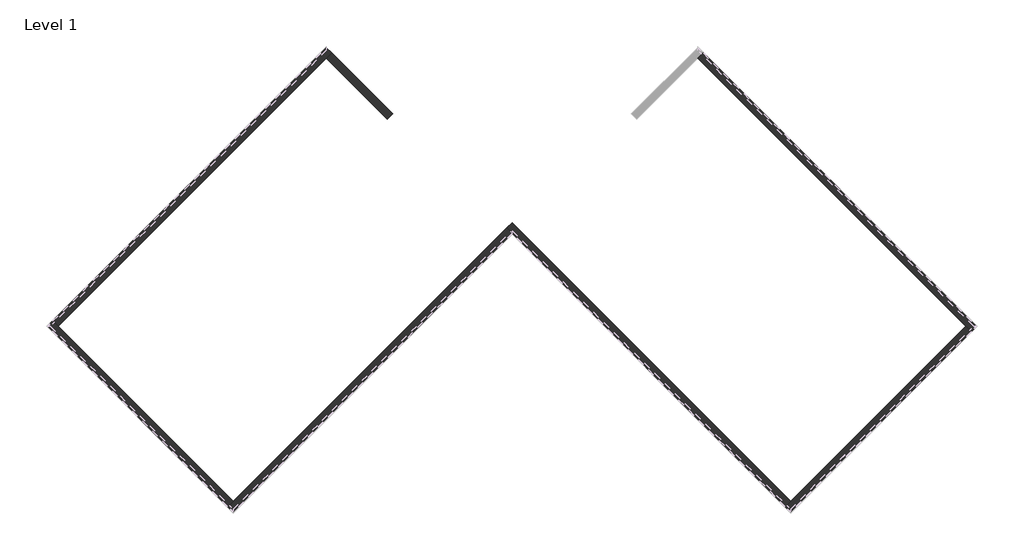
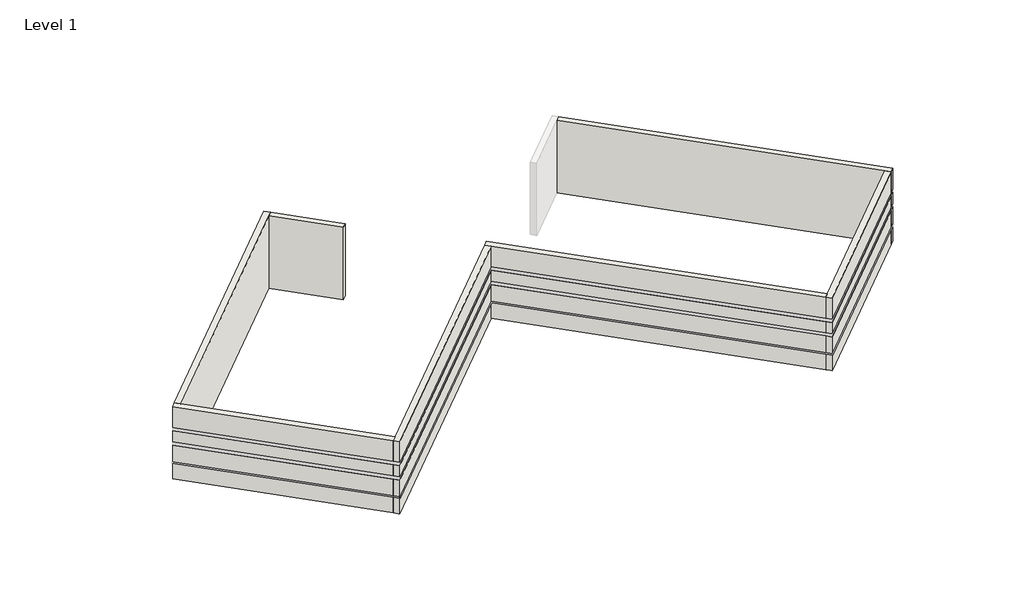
# One storey, part 1 of 2: 7 walls.
"""IFC4 building model written with IfcOpenShell, lengths in millimetres."""

import ifcopenshell
import ifcopenshell.guid

model = None  # the IFC model being written
_history = None  # IfcOwnerHistory: only IFC2X3 demands one
_inside = {}  # id of a spatial element -> (the spatial element, [elements in it])
_under = {}  # id of a project, library or spatial element -> (it, [spatial elements below it])
_declared = {}  # id of a project -> (the project, [libraries it declares])
_typed = {}  # id of a type object -> (the type object, [elements of that type])
_made_of = {}  # id of a material, layer set ... -> (it, [elements and type objects made of it])


def new_model(schema):
    """Start an empty IFC model of exactly this schema.

    Asked for "IFC4X3", IfcOpenShell would pick the latest addendum, in which some entities
    have other attributes; the version numbers below select the first issue.
    IFC2X3 requires an IfcOwnerHistory on every rooted entity: one is made here for all.
    """
    global model, _history
    if schema == "IFC4X3":
        model = ifcopenshell.file(schema_version=(4, 3, 0, 0))
    else:
        model = ifcopenshell.file(schema=schema)
    _inside.clear()
    _under.clear()
    _declared.clear()
    _typed.clear()
    _made_of.clear()
    _history = None
    if model.schema == "IFC2X3":
        org = make("IfcOrganization", Name="unknown")
        user = make(
            "IfcPersonAndOrganization",
            ThePerson=make("IfcPerson", FamilyName="unknown"),
            TheOrganization=org,
        )
        app = make(
            "IfcApplication",
            ApplicationDeveloper=org,
            Version="unknown",
            ApplicationFullName="unknown",
            ApplicationIdentifier="unknown",
        )
        _history = make(
            "IfcOwnerHistory",
            OwningUser=user,
            OwningApplication=app,
            ChangeAction="ADDED",
            CreationDate=0,
        )
    return model


def make(cls, **values):
    """One entity of the class cls with the attributes given. An attribute that is None is left unset."""
    return model.create_entity(
        cls, **{name: value for name, value in values.items() if value is not None}
    )


def rooted(cls, **values):
    """An entity with a GlobalId (a new one), such as an element, a storey or a relation."""
    return make(cls, GlobalId=ifcopenshell.guid.new(), OwnerHistory=_history, **values)


def si_unit(unit_type, name, prefix=None):
    """IfcSIUnit, for example si_unit("LENGTHUNIT", "METRE", prefix="MILLI")."""
    return make("IfcSIUnit", UnitType=unit_type, Prefix=prefix, Name=name)


def assignment(units):
    """IfcUnitAssignment: the units of a project."""
    return None if units is None else make("IfcUnitAssignment", Units=units)


def point(xyz):
    """IfcCartesianPoint."""
    return None if xyz is None else make("IfcCartesianPoint", Coordinates=xyz)


def direction(xyz):
    """IfcDirection."""
    return None if xyz is None else make("IfcDirection", DirectionRatios=xyz)


def frame(location, z_axis=None, x_axis=None):
    """IfcAxis2Placement3D, a coordinate frame: its origin and axes. An axis left out is left unset."""
    return make(
        "IfcAxis2Placement3D",
        Location=point(location),
        Axis=direction(z_axis),
        RefDirection=direction(x_axis),
    )


def origin():
    """The frame at (0, 0, 0) with its axes left unset."""
    return frame((0.0, 0.0, 0.0))


def place(relative_to, where):
    """IfcLocalPlacement: puts the frame where relative to a parent placement (None: the world)."""
    return make(
        "IfcLocalPlacement", PlacementRelTo=relative_to, RelativePlacement=where
    )


def context(
    kind, dimensions, precision=None, world=None, true_north=None, identifier=None
):
    """IfcGeometricRepresentationContext, for example the 3D "Model" context."""
    return make(
        "IfcGeometricRepresentationContext",
        ContextIdentifier=identifier,
        ContextType=kind,
        CoordinateSpaceDimension=dimensions,
        Precision=precision,
        WorldCoordinateSystem=world,
        TrueNorth=true_north,
    )


def project(units=None, contexts=None):
    """IfcProject with its units and contexts."""
    return rooted(
        "IfcProject",
        Name="project",
        RepresentationContexts=contexts,
        UnitsInContext=assignment(units),
    )


def spatial(cls, under=None, at=None, **own):
    """A site, building, storey or space (cls), placed at a placement, below another one or the project."""
    s = rooted(cls, ObjectPlacement=at, **own)
    if under is not None:
        _under.setdefault(under.id(), (under, []))[1].append(s)
    return s


def polyline(points):
    """IfcPolyline through the points."""
    return make("IfcPolyline", Points=[point(p) for p in points])


def circle_curve(where, radius):
    """IfcCircle in the frame where."""
    return make("IfcCircle", Position=where, Radius=radius)


def faces_of(points, faces, orient=None, outer=None):
    """IfcFace entities. A face is a list of loops; a loop is a list of indices into points, from 0.

    orient and outer hold one flag for each loop. By default every Orientation is true, the
    first loop of a face is its IfcFaceOuterBound and the others are IfcFaceBound.
    """
    made = []
    for i, loops in enumerate(faces):
        bounds = []
        for j, loop in enumerate(loops):
            is_outer = j == 0 if outer is None else outer[i][j]
            bounds.append(
                make(
                    "IfcFaceOuterBound" if is_outer else "IfcFaceBound",
                    Bound=make("IfcPolyLoop", Polygon=[points[k] for k in loop]),
                    Orientation=True if orient is None else orient[i][j],
                )
            )
        made.append(make("IfcFace", Bounds=bounds))
    return made


def faceted_brep(points, faces, orient=None, outer=None, voids=None):
    """IfcFacetedBrep: a solid bounded by flat faces; with voids (closed shells), ...WithVoids."""
    shared = [point(p) for p in points]
    hull = make("IfcClosedShell", CfsFaces=faces_of(shared, faces, orient, outer))
    if voids is None:
        return make("IfcFacetedBrep", Outer=hull)
    return make(
        "IfcFacetedBrepWithVoids",
        Outer=hull,
        Voids=[
            make(cls, CfsFaces=faces_of(shared, fs, o, b)) for cls, fs, o, b in voids
        ],
    )


def shape(context_of_items, identifier, shape_type, items):
    """IfcShapeRepresentation: the items that make up one representation, for example the "Body"."""
    return make(
        "IfcShapeRepresentation",
        ContextOfItems=context_of_items,
        RepresentationIdentifier=identifier,
        RepresentationType=shape_type,
        Items=items,
    )


def made_of(thing, what):
    """Note that an element or type object is made of a material, layer set ...; save() writes the relation."""
    if what is not None:
        _made_of.setdefault(what.id(), (what, []))[1].append(thing)
    return thing


def element(
    cls,
    number,
    at=None,
    inside=None,
    cuts=None,
    type_object=None,
    material=None,
    context=None,
    identifier="Body",
    shape_type=None,
    held_by="IfcProductDefinitionShape",
    body=None,
    shapes=None,
    **own,
):
    """One element of the class cls, such as IfcWall. Its Tag is "e" and its number.

    at: its placement. inside: the storey or other place that contains it. cuts: it is an
    opening in that element (IfcRelVoidsElement). A single representation is given by context,
    identifier, shape_type and body (its items); several are given by shapes. held_by: the class
    of the entity that holds the representations. save() writes the other relations.
    """
    e = rooted(cls, Tag="e%d" % number, ObjectPlacement=at, **own)
    if body is not None:
        shapes = [shape(context, identifier, shape_type, body)]
    if shapes is not None:
        e.Representation = make(held_by, Representations=shapes)
    if inside is not None:
        _inside.setdefault(inside.id(), (inside, []))[1].append(e)
    if cuts is not None:
        rooted(
            "IfcRelVoidsElement", RelatingBuildingElement=cuts, RelatedOpeningElement=e
        )
    if type_object is not None:
        _typed.setdefault(type_object.id(), (type_object, []))[1].append(e)
    return made_of(e, material)


def aggregate(whole, parts):
    """IfcRelAggregates: a whole, such as a stair, and the parts it consists of."""
    return rooted("IfcRelAggregates", RelatingObject=whole, RelatedObjects=parts)


def save(model, path):
    """Write the relations noted so far, then the file.

    IfcRelAggregates (storeys below a building ...), IfcRelContainedInSpatialStructure (elements
    in a storey), IfcRelDefinesByType, IfcRelAssociatesMaterial and IfcRelDeclares: one each for
    every whole, place, type object, material and project.
    """
    for whole, parts in _under.values():
        aggregate(whole, parts)
    for where, things in _inside.values():
        rooted(
            "IfcRelContainedInSpatialStructure",
            RelatedElements=things,
            RelatingStructure=where,
        )
    for kind, things in _typed.values():
        rooted("IfcRelDefinesByType", RelatedObjects=things, RelatingType=kind)
    for what, things in _made_of.values():
        rooted("IfcRelAssociatesMaterial", RelatedObjects=things, RelatingMaterial=what)
    for by, libraries in _declared.values():
        rooted("IfcRelDeclares", RelatingContext=by, RelatedDefinitions=libraries)
    model.write(path)


def plane_surface(at):
    """IfcPlane: the flat surface through the origin of the frame at, square to its z axis."""
    return make("IfcPlane", Position=at)


def cylinder_surface(at, radius):
    """IfcCylindricalSurface: all points at the distance radius from the z axis of the frame at."""
    return make("IfcCylindricalSurface", Position=at, Radius=radius)


def revolved_surface(curve, axis_point, axis_direction):
    """IfcSurfaceOfRevolution: the curve turned about the line through axis_point along axis_direction."""
    return make(
        "IfcSurfaceOfRevolution",
        SweptCurve=make("IfcArbitraryOpenProfileDef", ProfileType="CURVE", Curve=curve),
        AxisPosition=make("IfcAxis1Placement", Location=point(axis_point), Axis=direction(axis_direction)),
    )


def advanced_brep(points, edges, surfaces, faces):
    """IfcAdvancedBrep: a solid bounded by faces that lie on surfaces and meet in shared edges.

    An edge is (start, end): straight between two places in points (the first is 0);
    or (start, end, curve); or (start, end, curve, False) where it runs against its curve.
    A face is (place in surfaces, loops), or (place, loops, False) where it looks against
    its surface's normal. A loop lists edges by number (the first is 1), with a minus sign
    where the edge is run from its end to its start. The first loop is the outer one.
    """
    corners = [point(p) for p in points]
    vertices = [make("IfcVertexPoint", VertexGeometry=c) for c in corners]
    made = []
    for start, end, *more in edges:
        made.append(
            make(
                "IfcEdgeCurve",
                EdgeStart=vertices[start],
                EdgeEnd=vertices[end],
                EdgeGeometry=more[0] if more else make("IfcPolyline", Points=[corners[start], corners[end]]),
                SameSense=more[1] if len(more) > 1 else True,
            )
        )
    hull = []
    for where, loops, *sense in faces:
        bounds = []
        for j, loop in enumerate(loops):
            ring = [make("IfcOrientedEdge", EdgeElement=made[abs(k) - 1], Orientation=k > 0) for k in loop]
            bounds.append(
                make(
                    "IfcFaceOuterBound" if j == 0 else "IfcFaceBound",
                    Bound=make("IfcEdgeLoop", EdgeList=ring),
                    Orientation=True,
                )
            )
        hull.append(make("IfcAdvancedFace", Bounds=bounds, FaceSurface=surfaces[where], SameSense=sense[0] if sense else True))
    return make("IfcAdvancedBrep", Outer=make("IfcClosedShell", CfsFaces=hull))


model = new_model("IFC4")

# Units and contexts
model_context = context("Model", 3, world=origin())
ifc_project = project(units=[si_unit("LENGTHUNIT", "METRE", prefix="MILLI")], contexts=[model_context])

# Site, building, storey
site = spatial("IfcSite", under=ifc_project)
building = spatial("IfcBuilding", under=site)
storey = spatial("IfcBuildingStorey", under=building, Name="Level 1", Elevation=0.0)

# Walls
placement = place(None, origin())
element("IfcWall", 1, ObjectType="Exterior - Split Face and CMU on Mtl. Stud", at=placement, inside=storey, context=model_context, shape_type="Brep", body=[
    faceted_brep([(5753.0175119, 11075.1750895, 4572.0), (18186.1821115, -1357.9895101, 4572.0), (18435.3842189, -1607.1916175, 4572.0), (18684.5863263, -1357.9895101, 4572.0), (6002.2196193, 11324.3771969, 4572.0), (5753.0175119, 11075.1750895, 0.0), (18186.1821115, -1357.9895101, 0.0), (18435.3842189, -1607.1916175, 0.0), (18435.3842189, -1607.1916175, 1016.0), (18370.277362, -1542.0847606, 1016.0), (18370.277362, -1542.0847606, 1085.85), (18435.3842189, -1607.1916175, 1085.85), (18435.3842189, -1607.1916175, 2133.6), (18370.277362, -1542.0847606, 2133.6), (18370.277362, -1542.0847606, 2336.8), (18435.3842189, -1607.1916175, 2336.8), (18435.3842189, -1607.1916175, 3048.0), (18370.277362, -1542.0847606, 3048.0), (18370.277362, -1542.0847606, 3251.2), (18435.3842189, -1607.1916175, 3251.2), (18684.5863263, -1357.9895101, 3251.2), (6002.2196193, 11324.3771969, 3251.2), (18684.5863263, -1357.9895101, 0.0), (6002.2196193, 11324.3771969, 0.0), (6002.2196193, 11324.3771969, 1016.0), (18684.5863263, -1357.9895101, 1016.0), (18684.5863263, -1357.9895101, 1085.85), (6002.2196193, 11324.3771969, 1085.85), (6002.2196193, 11324.3771969, 2133.6), (18684.5863263, -1357.9895101, 2133.6), (18684.5863263, -1357.9895101, 2336.8), (6002.2196193, 11324.3771969, 2336.8), (6002.2196193, 11324.3771969, 3048.0), (18684.5863263, -1357.9895101, 3048.0), (5937.1127624, 11259.27034, 0.0), (18619.4794694, -1423.096367, 0.0), (5937.1127624, 11259.27034, 3251.2), (5937.1127624, 11259.27034, 3048.0), (5937.1127624, 11259.27034, 2336.8), (5937.1127624, 11259.27034, 2133.6), (5937.1127624, 11259.27034, 1085.85), (5937.1127624, 11259.27034, 1016.0), (18554.3726125, -1357.9895101, 1085.85), (18554.3726125, -1357.9895101, 1016.0), (18554.3726125, -1357.9895101, 2133.6), (18554.3726125, -1357.9895101, 2336.8), (18554.3726125, -1357.9895101, 3048.0), (18554.3726125, -1357.9895101, 3251.2)], [[[0, 1, 2, 3, 4]], [[5, 6, 7, 8, 9, 10, 11, 12, 13, 14, 15, 16, 17, 18, 19, 2, 1, 0]], [[4, 3, 20, 21]], [[22, 23, 24, 25]], [[26, 27, 28, 29]], [[30, 31, 32, 33]], [[7, 6, 5, 34, 35]], [[5, 0, 4, 21, 36, 37, 32, 31, 38, 39, 28, 27, 40, 41, 24, 23, 34]], [[23, 22, 35, 34]], [[3, 2, 19, 20]], [[7, 35, 22, 25, 8]], [[11, 26, 29, 12]], [[15, 30, 33, 16]], [[10, 42, 40, 27, 26, 11]], [[41, 43, 9, 8, 25, 24]], [[42, 43, 41, 40]], [[43, 42, 10, 9]], [[39, 44, 13, 12, 29, 28]], [[14, 45, 38, 31, 30, 15]], [[45, 44, 39, 38]], [[44, 45, 14, 13]], [[37, 46, 17, 16, 33, 32]], [[18, 47, 36, 21, 20, 19]], [[47, 46, 37, 36]], [[46, 47, 18, 17]]]),
])
element("IfcWall", 2, ObjectType="Exterior - Split Face and CMU on Mtl. Stud", at=placement, inside=storey, context=model_context, shape_type="Brep", body=[
    faceted_brep([(18186.1821115, -1357.9895101, 4572.0), (10063.54045, -9480.6311716, 4572.0), (9814.3383427, -9729.833279, 4572.0), (10063.54045, -9979.0353863, 4572.0), (18435.3842189, -1607.1916175, 4572.0), (18186.1821115, -1357.9895101, 0.0), (10063.54045, -9480.6311716, 0.0), (9814.3383427, -9729.833279, 0.0), (9814.3383427, -9729.833279, 1016.0), (9879.4451996, -9664.7264221, 1016.0), (9879.4451996, -9664.7264221, 1085.85), (9814.3383427, -9729.833279, 1085.85), (9814.3383427, -9729.833279, 2133.6), (9879.4451996, -9664.7264221, 2133.6), (9879.4451996, -9664.7264221, 2336.8), (9814.3383427, -9729.833279, 2336.8), (9814.3383427, -9729.833279, 3048.0), (9879.4451996, -9664.7264221, 3048.0), (9879.4451996, -9664.7264221, 3251.2), (9814.3383427, -9729.833279, 3251.2), (10063.54045, -9979.0353863, 3251.2), (18435.3842189, -1607.1916175, 3251.2), (10063.54045, -9979.0353863, 0.0), (18435.3842189, -1607.1916175, 0.0), (18435.3842189, -1607.1916175, 1016.0), (10063.54045, -9979.0353863, 1016.0), (10063.54045, -9979.0353863, 1085.85), (18435.3842189, -1607.1916175, 1085.85), (18435.3842189, -1607.1916175, 2133.6), (10063.54045, -9979.0353863, 2133.6), (10063.54045, -9979.0353863, 2336.8), (18435.3842189, -1607.1916175, 2336.8), (18435.3842189, -1607.1916175, 3048.0), (10063.54045, -9979.0353863, 3048.0), (18370.277362, -1542.0847606, 0.0), (9998.4335932, -9913.9285294, 0.0), (18370.277362, -1542.0847606, 3251.2), (18370.277362, -1542.0847606, 3048.0), (18370.277362, -1542.0847606, 2336.8), (18370.277362, -1542.0847606, 2133.6), (18370.277362, -1542.0847606, 1085.85), (18370.277362, -1542.0847606, 1016.0), (10063.54045, -9848.8216726, 1085.85), (10063.54045, -9848.8216726, 1016.0), (10063.54045, -9848.8216726, 2133.6), (10063.54045, -9848.8216726, 2336.8), (10063.54045, -9848.8216726, 3048.0), (10063.54045, -9848.8216726, 3251.2)], [[[0, 1, 2, 3, 4]], [[5, 6, 7, 8, 9, 10, 11, 12, 13, 14, 15, 16, 17, 18, 19, 2, 1, 0]], [[4, 3, 20, 21]], [[22, 23, 24, 25]], [[26, 27, 28, 29]], [[30, 31, 32, 33]], [[7, 6, 5, 34, 35]], [[5, 0, 4, 21, 36, 37, 32, 31, 38, 39, 28, 27, 40, 41, 24, 23, 34]], [[23, 22, 35, 34]], [[3, 2, 19, 20]], [[7, 35, 22, 25, 8]], [[11, 26, 29, 12]], [[15, 30, 33, 16]], [[10, 42, 40, 27, 26, 11]], [[41, 43, 9, 8, 25, 24]], [[42, 43, 41, 40]], [[43, 42, 10, 9]], [[39, 44, 13, 12, 29, 28]], [[14, 45, 38, 31, 30, 15]], [[45, 44, 39, 38]], [[44, 45, 14, 13]], [[37, 46, 17, 16, 33, 32]], [[18, 47, 36, 21, 20, 19]], [[47, 46, 37, 36]], [[46, 47, 18, 17]]]),
])
element("IfcWall", 3, ObjectType="Exterior - Split Face and CMU on Mtl. Stud", at=placement, inside=storey, context=model_context, shape_type="Brep", body=[
    faceted_brep([(10063.54045, -9480.6311716, 4572.0), (-2868.0283643, 3450.9376427, 4572.0), (-3117.2304717, 3201.7355354, 4572.0), (-2868.0283643, 2952.533428, 4572.0), (9814.3383427, -9729.833279, 4572.0), (10063.54045, -9480.6311716, 0.0), (-2868.0283643, 3450.9376427, 0.0), (-3117.2304717, 3201.7355354, 0.0), (-2868.0283643, 2952.533428, 0.0), (9814.3383427, -9729.833279, 0.0), (9814.3383427, -9729.833279, 1016.0), (-2868.0283643, 2952.533428, 1016.0), (-2933.1352212, 3017.6402849, 1016.0), (-2933.1352212, 3017.6402849, 1085.85), (-2868.0283643, 2952.533428, 1085.85), (9814.3383427, -9729.833279, 1085.85), (9814.3383427, -9729.833279, 2133.6), (-2868.0283643, 2952.533428, 2133.6), (-2933.1352212, 3017.6402849, 2133.6), (-2933.1352212, 3017.6402849, 2336.8), (-2868.0283643, 2952.533428, 2336.8), (9814.3383427, -9729.833279, 2336.8), (9814.3383427, -9729.833279, 3048.0), (-2868.0283643, 2952.533428, 3048.0), (-2933.1352212, 3017.6402849, 3048.0), (-2933.1352212, 3017.6402849, 3251.2), (-2868.0283643, 2952.533428, 3251.2), (9814.3383427, -9729.833279, 3251.2), (9879.4451996, -9664.7264221, 0.0), (-3052.1236148, 3266.8423923, 0.0), (9879.4451996, -9664.7264221, 3251.2), (9879.4451996, -9664.7264221, 3048.0), (9879.4451996, -9664.7264221, 2336.8), (9879.4451996, -9664.7264221, 2133.6), (9879.4451996, -9664.7264221, 1085.85), (9879.4451996, -9664.7264221, 1016.0), (-2868.0283643, 3082.7471418, 1085.85), (-2868.0283643, 3082.7471418, 1016.0), (-2868.0283643, 3082.7471418, 2133.6), (-2868.0283643, 3082.7471418, 2336.8), (-2868.0283643, 3082.7471418, 3048.0), (-2868.0283643, 3082.7471418, 3251.2)], [[[0, 1, 2, 3, 4]], [[5, 6, 1, 0]], [[4, 3, 2, 7, 8, 9, 10, 11, 12, 13, 14, 15, 16, 17, 18, 19, 20, 21, 22, 23, 24, 25, 26, 27]], [[6, 5, 28, 29]], [[5, 0, 4, 27, 30, 31, 22, 21, 32, 33, 16, 15, 34, 35, 10, 9, 28]], [[9, 8, 7, 29, 28]], [[1, 6, 29, 7, 2]], [[13, 36, 34, 15, 14]], [[35, 37, 12, 11, 10]], [[36, 37, 35, 34]], [[37, 36, 13, 12]], [[33, 38, 18, 17, 16]], [[19, 39, 32, 21, 20]], [[39, 38, 33, 32]], [[38, 39, 19, 18]], [[31, 40, 24, 23, 22]], [[25, 41, 30, 27, 26]], [[41, 40, 31, 30]], [[40, 41, 25, 24]]]),
])
element("IfcWall", 4, ObjectType="Exterior - Split Face and CMU on Mtl. Stud", at=placement, inside=storey, context=model_context, shape_type="Brep", body=[
    faceted_brep([(-3117.2304717, 3201.7355354, 4572.0), (-15799.5971786, -9480.6311716, 4572.0), (-16048.799286, -9729.833279, 4572.0), (-15799.5971786, -9979.0353863, 4572.0), (-2868.0283643, 2952.533428, 4572.0), (-3117.2304717, 3201.7355354, 0.0), (-15799.5971786, -9480.6311716, 0.0), (-16048.799286, -9729.833279, 0.0), (-16048.799286, -9729.833279, 1016.0), (-15983.6924291, -9664.7264221, 1016.0), (-15983.6924291, -9664.7264221, 1085.85), (-16048.799286, -9729.833279, 1085.85), (-16048.799286, -9729.833279, 2133.6), (-15983.6924291, -9664.7264221, 2133.6), (-15983.6924291, -9664.7264221, 2336.8), (-16048.799286, -9729.833279, 2336.8), (-16048.799286, -9729.833279, 3048.0), (-15983.6924291, -9664.7264221, 3048.0), (-15983.6924291, -9664.7264221, 3251.2), (-16048.799286, -9729.833279, 3251.2), (-15799.5971786, -9979.0353863, 3251.2), (-2868.0283643, 2952.533428, 3251.2), (-15799.5971786, -9979.0353863, 0.0), (-2868.0283643, 2952.533428, 0.0), (-2868.0283643, 2952.533428, 1016.0), (-15799.5971786, -9979.0353863, 1016.0), (-15799.5971786, -9979.0353863, 1085.85), (-2868.0283643, 2952.533428, 1085.85), (-2868.0283643, 2952.533428, 2133.6), (-15799.5971786, -9979.0353863, 2133.6), (-15799.5971786, -9979.0353863, 2336.8), (-2868.0283643, 2952.533428, 2336.8), (-2868.0283643, 2952.533428, 3048.0), (-15799.5971786, -9979.0353863, 3048.0), (-2933.1352212, 3017.6402849, 0.0), (-15864.7040355, -9913.9285294, 0.0), (-2933.1352212, 3017.6402849, 3251.2), (-2933.1352212, 3017.6402849, 3048.0), (-2933.1352212, 3017.6402849, 2336.8), (-2933.1352212, 3017.6402849, 2133.6), (-2933.1352212, 3017.6402849, 1085.85), (-2933.1352212, 3017.6402849, 1016.0), (-15799.5971786, -9848.8216726, 1085.85), (-15799.5971786, -9848.8216726, 1016.0), (-15799.5971786, -9848.8216726, 2133.6), (-15799.5971786, -9848.8216726, 2336.8), (-15799.5971786, -9848.8216726, 3048.0), (-15799.5971786, -9848.8216726, 3251.2)], [[[0, 1, 2, 3, 4]], [[5, 6, 7, 8, 9, 10, 11, 12, 13, 14, 15, 16, 17, 18, 19, 2, 1, 0]], [[4, 3, 20, 21]], [[22, 23, 24, 25]], [[26, 27, 28, 29]], [[30, 31, 32, 33]], [[7, 6, 5, 34, 35]], [[5, 0, 4, 21, 36, 37, 32, 31, 38, 39, 28, 27, 40, 41, 24, 23, 34]], [[23, 22, 35, 34]], [[3, 2, 19, 20]], [[7, 35, 22, 25, 8]], [[11, 26, 29, 12]], [[15, 30, 33, 16]], [[10, 42, 40, 27, 26, 11]], [[41, 43, 9, 8, 25, 24]], [[42, 43, 41, 40]], [[43, 42, 10, 9]], [[39, 44, 13, 12, 29, 28]], [[14, 45, 38, 31, 30, 15]], [[45, 44, 39, 38]], [[44, 45, 14, 13]], [[37, 46, 17, 16, 33, 32]], [[18, 47, 36, 21, 20, 19]], [[47, 46, 37, 36]], [[46, 47, 18, 17]]]),
])
element("IfcWall", 5, ObjectType="Exterior - Split Face and CMU on Mtl. Stud", at=placement, inside=storey, context=model_context, shape_type="Brep", body=[
    faceted_brep([(-15799.5971786, -9480.6311716, 4572.0), (-23922.2388402, -1357.9895101, 4572.0), (-24171.4409475, -1108.7874027, 4572.0), (-24420.6430549, -1357.9895101, 4572.0), (-16048.799286, -9729.833279, 4572.0), (-15799.5971786, -9480.6311716, 0.0), (-23922.2388402, -1357.9895101, 0.0), (-24171.4409475, -1108.7874027, 0.0), (-24171.4409475, -1108.7874027, 1016.0), (-24106.3340906, -1173.8942596, 1016.0), (-24106.3340906, -1173.8942596, 1085.85), (-24171.4409475, -1108.7874027, 1085.85), (-24171.4409475, -1108.7874027, 2133.6), (-24106.3340906, -1173.8942596, 2133.6), (-24106.3340906, -1173.8942596, 2336.8), (-24171.4409475, -1108.7874027, 2336.8), (-24171.4409475, -1108.7874027, 3048.0), (-24106.3340906, -1173.8942596, 3048.0), (-24106.3340906, -1173.8942596, 3251.2), (-24171.4409475, -1108.7874027, 3251.2), (-24420.6430549, -1357.9895101, 3251.2), (-16048.799286, -9729.833279, 3251.2), (-24420.6430549, -1357.9895101, 0.0), (-16048.799286, -9729.833279, 0.0), (-16048.799286, -9729.833279, 1016.0), (-24420.6430549, -1357.9895101, 1016.0), (-24420.6430549, -1357.9895101, 1085.85), (-16048.799286, -9729.833279, 1085.85), (-16048.799286, -9729.833279, 2133.6), (-24420.6430549, -1357.9895101, 2133.6), (-24420.6430549, -1357.9895101, 2336.8), (-16048.799286, -9729.833279, 2336.8), (-16048.799286, -9729.833279, 3048.0), (-24420.6430549, -1357.9895101, 3048.0), (-15983.6924291, -9664.7264221, 0.0), (-24355.536198, -1292.8826532, 0.0), (-15983.6924291, -9664.7264221, 3251.2), (-15983.6924291, -9664.7264221, 3048.0), (-15983.6924291, -9664.7264221, 2336.8), (-15983.6924291, -9664.7264221, 2133.6), (-15983.6924291, -9664.7264221, 1085.85), (-15983.6924291, -9664.7264221, 1016.0), (-24290.4293411, -1357.9895101, 1085.85), (-24290.4293411, -1357.9895101, 1016.0), (-24290.4293411, -1357.9895101, 2133.6), (-24290.4293411, -1357.9895101, 2336.8), (-24290.4293411, -1357.9895101, 3048.0), (-24290.4293411, -1357.9895101, 3251.2)], [[[0, 1, 2, 3, 4]], [[5, 6, 7, 8, 9, 10, 11, 12, 13, 14, 15, 16, 17, 18, 19, 2, 1, 0]], [[4, 3, 20, 21]], [[22, 23, 24, 25]], [[26, 27, 28, 29]], [[30, 31, 32, 33]], [[7, 6, 5, 34, 35]], [[5, 0, 4, 21, 36, 37, 32, 31, 38, 39, 28, 27, 40, 41, 24, 23, 34]], [[23, 22, 35, 34]], [[3, 2, 19, 20]], [[7, 35, 22, 25, 8]], [[11, 26, 29, 12]], [[15, 30, 33, 16]], [[10, 42, 40, 27, 26, 11]], [[41, 43, 9, 8, 25, 24]], [[42, 43, 41, 40]], [[43, 42, 10, 9]], [[39, 44, 13, 12, 29, 28]], [[14, 45, 38, 31, 30, 15]], [[45, 44, 39, 38]], [[44, 45, 14, 13]], [[37, 46, 17, 16, 33, 32]], [[18, 47, 36, 21, 20, 19]], [[47, 46, 37, 36]], [[46, 47, 18, 17]]]),
])
element("IfcWall", 6, ObjectType="Exterior - Split Face and CMU on Mtl. Stud", at=placement, inside=storey, context=model_context, shape_type="Brep", body=[
    faceted_brep([(-23922.2388402, -1357.9895101, 4572.0), (-11489.0742405, 11075.1750895, 4572.0), (-11239.8721332, 11324.3771969, 4572.0), (-11489.0742405, 11573.5793042, 4572.0), (-24171.4409475, -1108.7874027, 4572.0), (-23922.2388402, -1357.9895101, 0.0), (-11489.0742405, 11075.1750895, 0.0), (-11239.8721332, 11324.3771969, 0.0), (-11239.8721332, 11324.3771969, 1016.0), (-11304.9789901, 11259.27034, 1016.0), (-11304.9789901, 11259.27034, 1085.85), (-11239.8721332, 11324.3771969, 1085.85), (-11239.8721332, 11324.3771969, 2133.6), (-11304.9789901, 11259.27034, 2133.6), (-11304.9789901, 11259.27034, 2336.8), (-11239.8721332, 11324.3771969, 2336.8), (-11239.8721332, 11324.3771969, 3048.0), (-11304.9789901, 11259.27034, 3048.0), (-11304.9789901, 11259.27034, 3251.2), (-11239.8721332, 11324.3771969, 3251.2), (-11489.0742405, 11573.5793042, 3251.2), (-24171.4409475, -1108.7874027, 3251.2), (-11489.0742405, 11573.5793042, 0.0), (-24171.4409475, -1108.7874027, 0.0), (-24171.4409475, -1108.7874027, 1016.0), (-11489.0742405, 11573.5793042, 1016.0), (-11489.0742405, 11573.5793042, 1085.85), (-24171.4409475, -1108.7874027, 1085.85), (-24171.4409475, -1108.7874027, 2133.6), (-11489.0742405, 11573.5793042, 2133.6), (-11489.0742405, 11573.5793042, 2336.8), (-24171.4409475, -1108.7874027, 2336.8), (-24171.4409475, -1108.7874027, 3048.0), (-11489.0742405, 11573.5793042, 3048.0), (-24106.3340906, -1173.8942596, 0.0), (-11423.9673837, 11508.4724474, 0.0), (-24106.3340906, -1173.8942596, 3251.2), (-24106.3340906, -1173.8942596, 3048.0), (-24106.3340906, -1173.8942596, 2336.8), (-24106.3340906, -1173.8942596, 2133.6), (-24106.3340906, -1173.8942596, 1085.85), (-24106.3340906, -1173.8942596, 1016.0), (-11489.0742405, 11443.3655905, 1085.85), (-11489.0742405, 11443.3655905, 1016.0), (-11489.0742405, 11443.3655905, 2133.6), (-11489.0742405, 11443.3655905, 2336.8), (-11489.0742405, 11443.3655905, 3048.0), (-11489.0742405, 11443.3655905, 3251.2)], [[[0, 1, 2, 3, 4]], [[5, 6, 7, 8, 9, 10, 11, 12, 13, 14, 15, 16, 17, 18, 19, 2, 1, 0]], [[4, 3, 20, 21]], [[22, 23, 24, 25]], [[26, 27, 28, 29]], [[30, 31, 32, 33]], [[7, 6, 5, 34, 35]], [[5, 0, 4, 21, 36, 37, 32, 31, 38, 39, 28, 27, 40, 41, 24, 23, 34]], [[23, 22, 35, 34]], [[3, 2, 19, 20]], [[7, 35, 22, 25, 8]], [[11, 26, 29, 12]], [[15, 30, 33, 16]], [[10, 42, 40, 27, 26, 11]], [[41, 43, 9, 8, 25, 24]], [[42, 43, 41, 40]], [[43, 42, 10, 9]], [[39, 44, 13, 12, 29, 28]], [[14, 45, 38, 31, 30, 15]], [[45, 44, 39, 38]], [[44, 45, 14, 13]], [[37, 46, 17, 16, 33, 32]], [[18, 47, 36, 21, 20, 19]], [[47, 46, 37, 36]], [[46, 47, 18, 17]]]),
])
element("IfcWall", 7, ObjectType="Exterior - Split Face and CMU on Mtl. Stud", at=placement, inside=storey, context=model_context, shape_type="AdvancedBrep", body=[
    advanced_brep(
    [(-11489.0742405, 11075.1750895, 4572.0), (-8658.0122729, 8244.1131219, 4572.0), (-8413.2817722, 8497.7868359, 4572.0), (-8662.486224, 8746.9912878, 4572.0), (-11239.8721332, 11324.3771969, 4572.0), (-11489.0742405, 11075.1750895, 0.0), (-8658.0122729, 8244.1131219, 0.0), (-8413.2817722, 8497.7868359, 0.0), (-8662.486224, 8746.9912878, 0.0), (-11239.8721332, 11324.3771969, 0.0), (-11239.8721332, 11324.3771969, 1016.0), (-8662.486224, 8746.9912878, 1016.0), (-8597.3787742, 8681.8838379, 1016.0), (-8597.3787742, 8681.8838379, 1085.85), (-8662.486224, 8746.9912878, 1085.85), (-11239.8721332, 11324.3771969, 1085.85), (-11239.8721332, 11324.3771969, 2133.6), (-8662.486224, 8746.9912878, 2133.6), (-8597.3787742, 8681.8838379, 2133.6), (-8597.3787742, 8681.8838379, 2336.8), (-8662.486224, 8746.9912878, 2336.8), (-11239.8721332, 11324.3771969, 2336.8), (-11239.8721332, 11324.3771969, 3048.0), (-8662.486224, 8746.9912878, 3048.0), (-8597.3787742, 8681.8838379, 3048.0), (-8597.3787742, 8681.8838379, 3251.2), (-8662.486224, 8746.9912878, 3251.2), (-11239.8721332, 11324.3771969, 3251.2), (-11304.9789901, 11259.27034, 0.0), (-8478.2967797, 8432.5881297, 0.0), (-11304.9789901, 11259.27034, 3251.2), (-11304.9789901, 11259.27034, 3048.0), (-11304.9789901, 11259.27034, 2336.8), (-11304.9789901, 11259.27034, 2133.6), (-11304.9789901, 11259.27034, 1085.85), (-11304.9789901, 11259.27034, 1016.0), (-8662.3967205, 8616.6880705, 1085.85), (-8662.3967205, 8616.6880705, 1016.0), (-8662.3967205, 8616.6880705, 2336.8), (-8662.3967205, 8616.6880705, 2133.6), (-8662.3967205, 8616.6880705, 3251.2), (-8662.3967205, 8616.6880705, 3048.0)],
    [
        (0, 1),
        (1, 2, circle_curve(frame((-2868.0283643, 2903.1420194, 4572.0), z_axis=(0.0, 0.0, -1.0), x_axis=(1.0, 0.0, 0.0)), 7877.175)),
        (2, 3),
        (3, 4),
        (4, 0),
        (5, 6),
        (6, 1),
        (0, 5),
        (2, 7),
        (7, 8),
        (8, 9),
        (9, 10),
        (10, 11),
        (11, 12),
        (12, 13),
        (13, 14),
        (14, 15),
        (15, 16),
        (16, 17),
        (17, 18),
        (18, 19),
        (19, 20),
        (20, 21),
        (21, 22),
        (22, 23),
        (23, 24),
        (24, 25),
        (25, 26),
        (26, 27),
        (27, 4),
        (5, 28),
        (28, 29),
        (29, 6, circle_curve(frame((-2868.0283643, 2903.1420194, 0.0), z_axis=(0.0, 0.0, 1.0), x_axis=(1.0, 0.0, 0.0)), 7877.175)),
        (27, 30),
        (30, 31),
        (31, 22),
        (21, 32),
        (32, 33),
        (33, 16),
        (15, 34),
        (34, 35),
        (35, 10),
        (9, 28),
        (7, 29, circle_curve(frame((-2868.0283643, 2903.1420194, 0.0), z_axis=(0.0, 0.0, 1.0), x_axis=(1.0, 0.0, 0.0)), 7877.175)),
        (36, 37),
        (37, 35),
        (34, 36),
        (13, 36, circle_curve(frame((-2868.0283643, 2903.1420194, 1085.85), z_axis=(0.0, 0.0, 1.0), x_axis=(-0.7040995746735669, 0.7101012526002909, 0.0)), 8137.525)),
        (37, 12, circle_curve(frame((-2868.0283643, 2903.1420194, 1016.0), z_axis=(0.0, 0.0, -1.0), x_axis=(-0.7040995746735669, 0.7101012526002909, 0.0)), 8137.525)),
        (38, 39),
        (39, 33),
        (32, 38),
        (39, 18, circle_curve(frame((-2868.0283643, 2903.1420194, 2133.6), z_axis=(0.0, 0.0, -1.0), x_axis=(-0.7120553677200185, 0.70212331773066, 0.0)), 8137.525)),
        (38, 19, circle_curve(frame((-2868.0283643, 2903.1420194, 2336.8), z_axis=(0.0, 0.0, -1.0), x_axis=(-0.7120553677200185, 0.70212331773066, 0.0)), 8137.525)),
        (40, 41),
        (41, 31),
        (30, 40),
        (41, 24, circle_curve(frame((-2868.0283643, 2903.1420194, 3048.0), z_axis=(0.0, 0.0, -1.0), x_axis=(-0.7120553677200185, 0.70212331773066, 0.0)), 8137.525)),
        (40, 25, circle_curve(frame((-2868.0283643, 2903.1420194, 3251.2), z_axis=(0.0, 0.0, -1.0), x_axis=(-0.7120553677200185, 0.70212331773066, 0.0)), 8137.525)),
    ],
    [
        plane_surface(frame((-8786.2632499, 8372.3640989, 4572.0), z_axis=(0.0, 0.0, 1.0), x_axis=(0.7071067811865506, 0.7071067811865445, 0.0))),
        plane_surface(frame((-11738.2763479, 11324.3771969, 0.0), z_axis=(-0.7071067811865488, -0.7071067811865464, 0.0), x_axis=(0.7071067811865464, -0.7071067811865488, 0.0))),
        plane_surface(frame((-11489.0742405, 11573.5793042, 0.0), z_axis=(0.7071067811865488, 0.7071067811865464, 0.0), x_axis=(-0.7071067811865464, 0.7071067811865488, 0.0))),
        plane_surface(frame((-11613.6752942, 11199.7761432, 0.0), z_axis=(0.0, 0.0, -1.0000000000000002), x_axis=(0.7071067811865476, 0.7071067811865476, 0.0))),
        plane_surface(frame((-24171.4409475, -1607.1916175, 0.0), z_axis=(-0.7071067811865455, 0.7071067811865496, 0.0), x_axis=(0.7071067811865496, 0.7071067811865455, 0.0))),
        plane_surface(frame((0.0, 0.0, 0.0), z_axis=(0.0, 0.0, -1.0), x_axis=(1.0, 0.0, 0.0))),
        revolved_surface(polyline([(5009.146635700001, 2903.1420194, 0.0), (5009.146635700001, 2903.1420194, 4572.0)]), (-2868.0283643, 2903.1420194, 0.0), (0.0, 0.0, -1.0)),
        plane_surface(frame((-11489.0742405, 11443.3655905, 1016.0), z_axis=(0.7071067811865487, 0.7071067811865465, 0.0), x_axis=(0.7071067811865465, -0.7071067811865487, 0.0))),
        plane_surface(frame((-2868.0283643, 2903.1420194, 1085.85), z_axis=(0.0, 0.0, -1.0), x_axis=(-0.7040995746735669, 0.7101012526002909, 0.0))),
        plane_surface(frame((-2868.0283643, 2903.1420194, 1016.0), z_axis=(0.0, 0.0, 1.0), x_axis=(-0.7040995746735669, 0.7101012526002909, 0.0))),
        cylinder_surface(frame((-2868.0283643, 2903.1420194, 1016.0), z_axis=(0.0, 0.0, -1.0), x_axis=(-0.7040995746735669, 0.7101012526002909, 0.0)), 8137.525),
        plane_surface(frame((-11489.0742405, 11443.3655905, 2133.6), z_axis=(0.7071067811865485, 0.7071067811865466, 0.0), x_axis=(0.7071067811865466, -0.7071067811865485, 0.0))),
        plane_surface(frame((-2868.0283643, 2903.1420194, 2133.6), z_axis=(0.0, 0.0, 1.0), x_axis=(-0.7120553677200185, 0.70212331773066, 0.0))),
        cylinder_surface(frame((-2868.0283643, 2903.1420194, 2133.6), z_axis=(0.0, 0.0, -1.0), x_axis=(-0.7120553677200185, 0.70212331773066, 0.0)), 8137.525),
        plane_surface(frame((-2868.0283643, 2903.1420194, 2336.8), z_axis=(0.0, 0.0, -1.0), x_axis=(-0.7120553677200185, 0.70212331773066, 0.0))),
        plane_surface(frame((-11489.0742405, 11443.3655905, 3048.0), z_axis=(0.707106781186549, 0.707106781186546, 0.0), x_axis=(0.707106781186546, -0.707106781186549, 0.0))),
        plane_surface(frame((-2868.0283643, 2903.1420194, 3048.0), z_axis=(0.0, 0.0, 1.0), x_axis=(-0.7120553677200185, 0.70212331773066, 0.0))),
        cylinder_surface(frame((-2868.0283643, 2903.1420194, 3048.0), z_axis=(0.0, 0.0, -1.0), x_axis=(-0.7120553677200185, 0.70212331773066, 0.0)), 8137.525),
        plane_surface(frame((-2868.0283643, 2903.1420194, 3251.2), z_axis=(0.0, 0.0, -1.0), x_axis=(-0.7120553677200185, 0.70212331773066, 0.0))),
    ],
    [
        (0, [[1, 2, 3, 4, 5]]),
        (1, [[6, 7, -1, 8]]),
        (2, [[-4, -3, 9, 10, 11, 12, 13, 14, 15, 16, 17, 18, 19, 20, 21, 22, 23, 24, 25, 26, 27, 28, 29, 30]]),
        (3, [[-6, 31, 32, 33]]),
        (4, [[-8, -5, -30, 34, 35, 36, -24, 37, 38, 39, -18, 40, 41, 42, -12, 43, -31]]),
        (5, [[-11, -10, 44, -32, -43]]),
        (6, [[-7, -33, -44, -9, -2]]),
        (7, [[45, 46, -41, 47]]),
        (8, [[48, -47, -40, -17, -16]]),
        (9, [[-46, 49, -14, -13, -42]]),
        (10, [[-45, -48, -15, -49]]),
        (11, [[50, 51, -38, 52]]),
        (12, [[-51, 53, -20, -19, -39]]),
        (13, [[-50, 54, -21, -53]]),
        (14, [[-54, -52, -37, -23, -22]]),
        (15, [[55, 56, -35, 57]]),
        (16, [[-56, 58, -26, -25, -36]]),
        (17, [[-55, 59, -27, -58]]),
        (18, [[-59, -57, -34, -29, -28]]),
    ],
),
])

save(model, "model.ifc")
